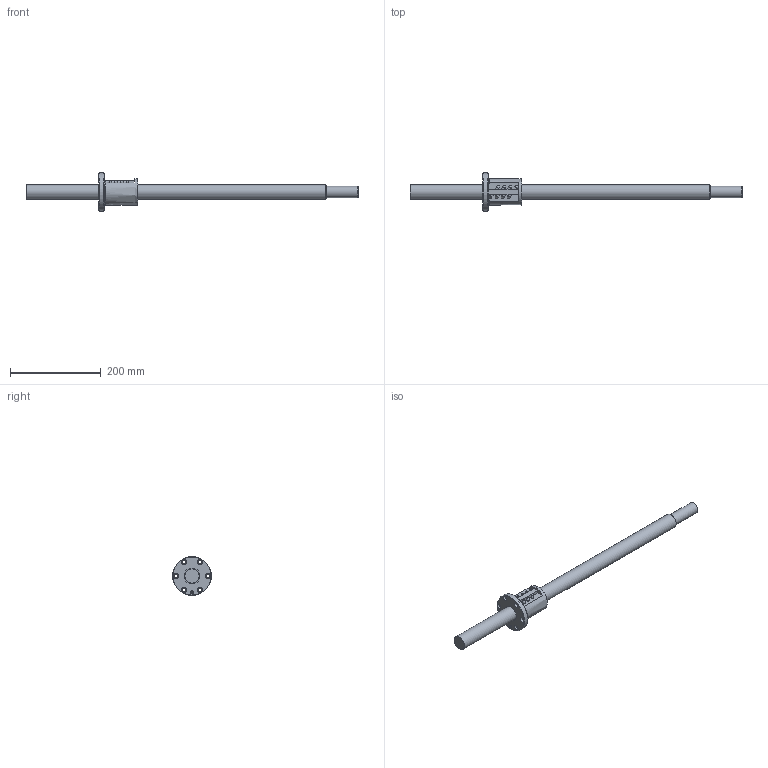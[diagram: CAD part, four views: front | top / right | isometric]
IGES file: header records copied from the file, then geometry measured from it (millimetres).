
Start section: Data from Parasolid IGES Translator 26.0.171, Copyright(c) 2006 Siemens PLM Software. All Rights Reserved.
Global section: file name: BIF3205-10RRG0+730LC5A(00).igs; native system: By Siemens PLM Incorporated; preprocessor: XPlus GENERIC/IGES 26.0.171; author: Noname; organization: Noname; date: 20240715.072852; units: millimetre
Bounding box: 730 x 85 x 85 mm (x, y, z)
Surface area: 112357.9 mm2 (no closed solid volume)
Topology: 0 solids, 0 shells, 111 faces, 518 edges, 486 vertices
Faces by surface type: revolution 79, extrusion 32
